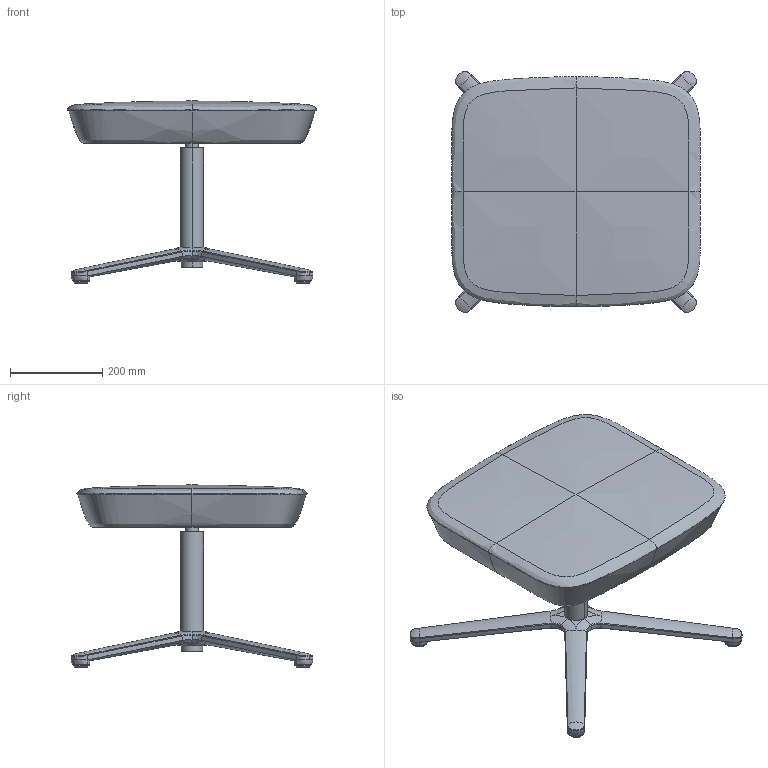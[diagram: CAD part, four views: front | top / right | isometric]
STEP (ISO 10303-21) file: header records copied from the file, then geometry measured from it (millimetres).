
FILE_DESCRIPTION(/* description */ (''),/* implementation_level */ '2;1');
FILE_NAME(/* name */ 'Winx WX 889-01',/* time_stamp */ '2021-03-30T00:53:50+02:00',/* author */ (''),/* organization */ (''),/* preprocessor_version */ 'ST-DEVELOPER v16.5',/* originating_system */ '',/* authorisation */ '');
FILE_SCHEMA (('CONFIG_CONTROL_DESIGN'));
Length unit declared in the file: millimetre
Products named in the file (1): Document
Bounding box: 538.85 x 524.14 x 395 mm (x, y, z)
Volume: 21046067.2 mm3; surface area: 829657.7 mm2
Topology: 2 solids, 8 shells, 154 faces, 359 edges, 208 vertices
Faces by surface type: bspline 124, plane 18, cylinder 12
Entity records: 9054 total; most frequent: CARTESIAN_POINT 6950, ORIENTED_EDGE 676, EDGE_CURVE 348, VERTEX_POINT 202, B_SPLINE_CURVE_WITH_KNOTS 161, ADVANCED_FACE 154, FACE_OUTER_BOUND 154, EDGE_LOOP 154
